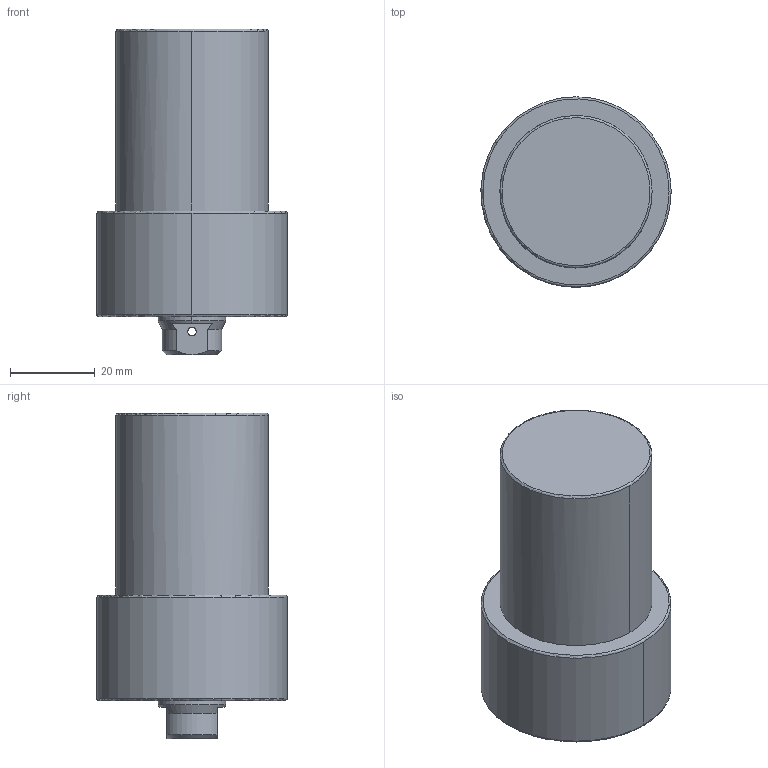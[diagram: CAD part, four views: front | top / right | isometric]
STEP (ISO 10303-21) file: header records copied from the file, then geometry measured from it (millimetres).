
FILE_DESCRIPTION((' '),'2;1');
FILE_NAME( 'TLLU-036GB-035.STEP.stp', '2025-10-24T16:37:05', (' '), ('--- Datakit www.datakit.com---'), ' Datakit CrossCadWare V2024.1 Dec 21 2023', 'Mastercam 2025', ' ');
FILE_SCHEMA(('AUTOMOTIVE_DESIGN { 1 0 10303 214 1 1 1 1 }'));
Length unit declared in the file: millimetre
Products named in the file (1): TLLU-036GB-035
Bounding box: 44.99 x 45 x 77 mm (x, y, z)
Volume: 83913.1 mm3; surface area: 12727.5 mm2
Topology: 1 solids, 1 shells, 66 faces, 192 edges, 125 vertices
Faces by surface type: cylinder 26, cone 24, plane 10, torus 6
Entity records: 2820 total; most frequent: CARTESIAN_POINT 1010, DIRECTION 412, ORIENTED_EDGE 364, EDGE_CURVE 182, AXIS2_PLACEMENT_3D 179, VERTEX_POINT 125, CIRCLE 112, EDGE_LOOP 77
